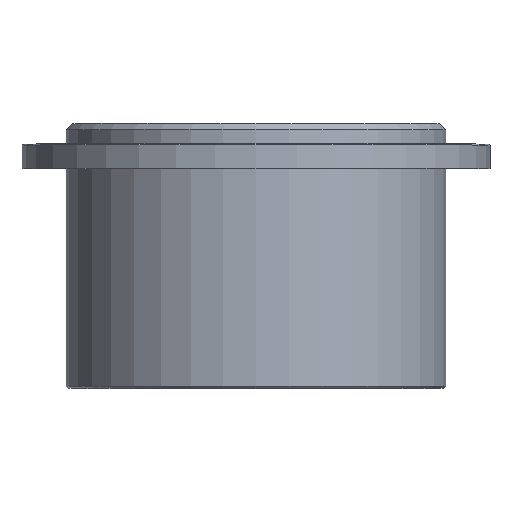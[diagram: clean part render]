
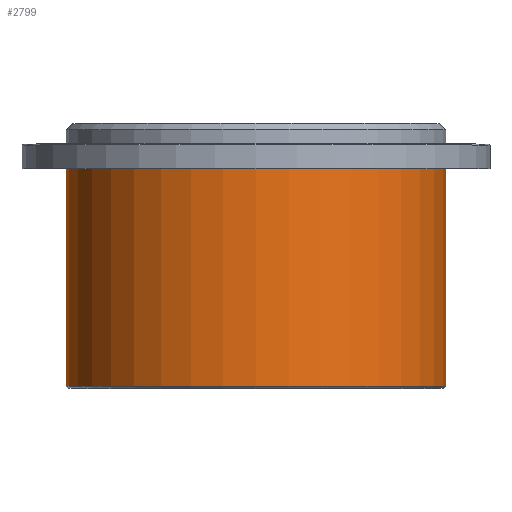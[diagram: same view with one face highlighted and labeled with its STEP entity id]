
A CAD part, top view. The second image highlights one B-rep face of the part: STEP entity #2799.
In plain terms, the highlighted cylindrical face has radius 92.5 mm (diameter 185 mm), a full revolution.
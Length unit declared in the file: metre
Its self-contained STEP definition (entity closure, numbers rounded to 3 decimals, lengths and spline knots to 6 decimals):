
#2799=ADVANCED_FACE('',(#7330,#7331),#7332,.T.);
#7330=FACE_OUTER_BOUND('',#14247,.T.);
#7331=FACE_OUTER_BOUND('',#14248,.T.);
#7332=CYLINDRICAL_SURFACE('',#14249,0.0925);
#14247=EDGE_LOOP('',(#24700));
#14248=EDGE_LOOP('',(#24701));
#14249=AXIS2_PLACEMENT_3D('',#24702,#24703,#24704);
#24700=ORIENTED_EDGE('',*,*,#27107,.F.);
#24701=ORIENTED_EDGE('',*,*,#27108,.T.);
#24702=CARTESIAN_POINT('',(0.553724,-0.001708,0.0));
#24703=DIRECTION('',(-0.0,-1.0,-0.0));
#24704=DIRECTION('',(0.0,0.0,1.0));
#27107=EDGE_CURVE('',#27316,#27316,#27317,.T.);
#27108=EDGE_CURVE('',#27318,#27318,#27319,.T.);
#27316=VERTEX_POINT('',#27599);
#27317=CIRCLE('',#27600,0.0925);
#27318=VERTEX_POINT('',#27601);
#27319=CIRCLE('',#27602,0.0925);
#27599=CARTESIAN_POINT('',(0.553724,-0.028151,0.0925));
#27600=AXIS2_PLACEMENT_3D('',#27982,#27983,#27984);
#27601=CARTESIAN_POINT('',(0.553724,-0.134151,0.0925));
#27602=AXIS2_PLACEMENT_3D('',#27985,#27986,#27987);
#27982=CARTESIAN_POINT('',(0.553724,-0.028151,0.0));
#27983=DIRECTION('',(0.0,1.0,0.0));
#27984=DIRECTION('',(0.0,0.0,1.0));
#27985=CARTESIAN_POINT('',(0.553724,-0.134151,0.0));
#27986=DIRECTION('',(0.0,1.0,0.0));
#27987=DIRECTION('',(0.0,0.0,1.0));
